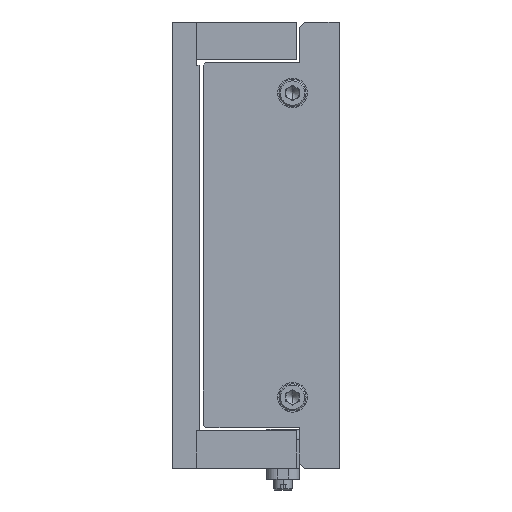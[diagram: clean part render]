
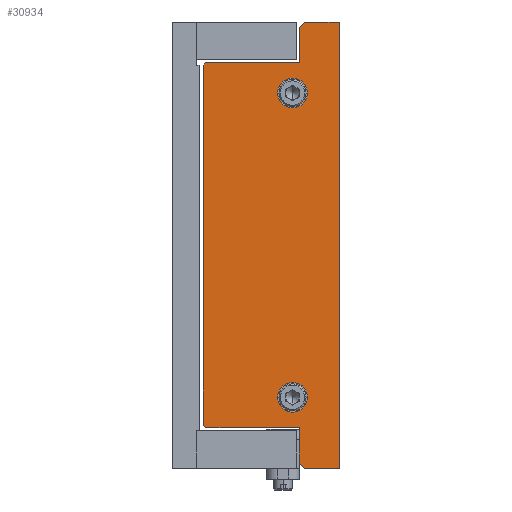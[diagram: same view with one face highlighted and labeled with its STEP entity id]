
A CAD part, left-side view. The second image highlights one B-rep face of the part: STEP entity #30934.
In plain terms, the highlighted planar face has unit normal (-1, 0, 0).
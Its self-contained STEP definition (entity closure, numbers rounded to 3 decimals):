
#23 = DIRECTION ( 'NONE',  ( 0., -0.707, -0.707 ) ) ;
#68 = CARTESIAN_POINT ( 'NONE',  ( -240., 0., 0. ) ) ;
#80 = CARTESIAN_POINT ( 'NONE',  ( -240., 0.25, -82.5 ) ) ;
#307 = EDGE_CURVE ( 'NONE', #4333, #4589, #35102, .T. ) ;
#821 = VECTOR ( 'NONE', #10165, 1000. ) ;
#1348 = DIRECTION ( 'NONE',  ( 0., 0., 1. ) ) ;
#1471 = VERTEX_POINT ( 'NONE', #34326 ) ;
#1771 = VECTOR ( 'NONE', #22214, 1000. ) ;
#3692 = CARTESIAN_POINT ( 'NONE',  ( -240., 17.5, 50.75 ) ) ;
#4029 = VERTEX_POINT ( 'NONE', #26239 ) ;
#4157 = CARTESIAN_POINT ( 'NONE',  ( -240., 17.5, 56.25 ) ) ;
#4333 = VERTEX_POINT ( 'NONE', #38085 ) ;
#4586 = CARTESIAN_POINT ( 'NONE',  ( -240., 0.25, 82.5 ) ) ;
#4589 = VERTEX_POINT ( 'NONE', #10961 ) ;
#4606 = VECTOR ( 'NONE', #28483, 1000. ) ;
#5040 = AXIS2_PLACEMENT_3D ( 'NONE', #5766, #13840, #31526 ) ;
#5234 = EDGE_CURVE ( 'NONE', #26415, #51976, #34444, .T. ) ;
#5391 = DIRECTION ( 'NONE',  ( 0., 0., -1. ) ) ;
#5471 = DIRECTION ( 'NONE',  ( 0., 0., -1. ) ) ;
#5766 = CARTESIAN_POINT ( 'NONE',  ( -240., 17.5, -56.25 ) ) ;
#6347 = EDGE_CURVE ( 'NONE', #51976, #20784, #38533, .T. ) ;
#6624 = VERTEX_POINT ( 'NONE', #38699 ) ;
#6880 = ORIENTED_EDGE ( 'NONE', *, *, #34812, .T. ) ;
#6918 = EDGE_CURVE ( 'NONE', #6624, #16920, #40279, .T. ) ;
#7443 = EDGE_LOOP ( 'NONE', ( #53667, #34924 ) ) ;
#7547 = LINE ( 'NONE', #47765, #37826 ) ;
#7811 = LINE ( 'NONE', #26538, #1771 ) ;
#8203 = EDGE_CURVE ( 'NONE', #4029, #6624, #46117, .T. ) ;
#8671 = DIRECTION ( 'NONE',  ( -1., 0., 0. ) ) ;
#9311 = CARTESIAN_POINT ( 'NONE',  ( -240., 50.5, 66.5 ) ) ;
#9713 = EDGE_LOOP ( 'NONE', ( #18230, #39667 ) ) ;
#10165 = DIRECTION ( 'NONE',  ( 0., 0., -1. ) ) ;
#10961 = CARTESIAN_POINT ( 'NONE',  ( -240., 15., 80.55 ) ) ;
#10967 = ORIENTED_EDGE ( 'NONE', *, *, #307, .T. ) ;
#11553 = VECTOR ( 'NONE', #20934, 1000. ) ;
#11825 = DIRECTION ( 'NONE',  ( 0., -0.707, -0.707 ) ) ;
#12113 = VERTEX_POINT ( 'NONE', #44231 ) ;
#13693 = EDGE_CURVE ( 'NONE', #20784, #4333, #7811, .T. ) ;
#13840 = DIRECTION ( 'NONE',  ( -1., 0., 0. ) ) ;
#14231 = CARTESIAN_POINT ( 'NONE',  ( -240., 49.5, 67.5 ) ) ;
#16760 = DIRECTION ( 'NONE',  ( 0., 0., -1. ) ) ;
#16840 = LINE ( 'NONE', #52116, #39756 ) ;
#16920 = VERTEX_POINT ( 'NONE', #9311 ) ;
#17091 = ORIENTED_EDGE ( 'NONE', *, *, #6347, .T. ) ;
#17391 = EDGE_CURVE ( 'NONE', #12113, #26415, #31765, .T. ) ;
#17910 = EDGE_LOOP ( 'NONE', ( #17091, #46032, #10967, #48937, #26755, #47215, #46190, #48786, #6880, #40887, #41427, #20366 ) ) ;
#18230 = ORIENTED_EDGE ( 'NONE', *, *, #46252, .F. ) ;
#18235 = CARTESIAN_POINT ( 'NONE',  ( -240., 15., 67.5 ) ) ;
#19445 = DIRECTION ( 'NONE',  ( 0., 0.707, -0.707 ) ) ;
#19574 = VERTEX_POINT ( 'NONE', #22003 ) ;
#19616 = EDGE_CURVE ( 'NONE', #38119, #19574, #47832, .T. ) ;
#20366 = ORIENTED_EDGE ( 'NONE', *, *, #5234, .T. ) ;
#20784 = VERTEX_POINT ( 'NONE', #4586 ) ;
#20805 = VERTEX_POINT ( 'NONE', #26164 ) ;
#20934 = DIRECTION ( 'NONE',  ( 0., -1., 0. ) ) ;
#20978 = LINE ( 'NONE', #36315, #821 ) ;
#22003 = CARTESIAN_POINT ( 'NONE',  ( -240., 17.5, 61.75 ) ) ;
#22214 = DIRECTION ( 'NONE',  ( 0., 1., 0. ) ) ;
#22768 = DIRECTION ( 'NONE',  ( -1., 0., 0. ) ) ;
#23630 = VECTOR ( 'NONE', #23, 1000. ) ;
#24526 = LINE ( 'NONE', #45927, #55600 ) ;
#25434 = CARTESIAN_POINT ( 'NONE',  ( -240., 0.25, -82.5 ) ) ;
#25582 = PLANE ( 'NONE',  #46859 ) ;
#25769 = EDGE_CURVE ( 'NONE', #1471, #12113, #20978, .T. ) ;
#26164 = CARTESIAN_POINT ( 'NONE',  ( -240., 49.5, -67.5 ) ) ;
#26239 = CARTESIAN_POINT ( 'NONE',  ( -240., 15., 67.5 ) ) ;
#26415 = VERTEX_POINT ( 'NONE', #36089 ) ;
#26538 = CARTESIAN_POINT ( 'NONE',  ( -240., 13.05, 82.5 ) ) ;
#26755 = ORIENTED_EDGE ( 'NONE', *, *, #8203, .T. ) ;
#27052 = VECTOR ( 'NONE', #37041, 1000. ) ;
#27448 = CARTESIAN_POINT ( 'NONE',  ( -240., 17.5, 56.25 ) ) ;
#28146 = DIRECTION ( 'NONE',  ( 0., 0., 1. ) ) ;
#28346 = CARTESIAN_POINT ( 'NONE',  ( -240., 0.25, 82.5 ) ) ;
#28483 = DIRECTION ( 'NONE',  ( 0., 0.707, -0.707 ) ) ;
#30458 = DIRECTION ( 'NONE',  ( 0., 0., 1. ) ) ;
#30934 = ADVANCED_FACE ( 'NONE', ( #54676, #54033, #45255 ), #25582, .F. ) ;
#31227 = EDGE_CURVE ( 'NONE', #4589, #4029, #39076, .T. ) ;
#31526 = DIRECTION ( 'NONE',  ( 0., 0., 1. ) ) ;
#31705 = CIRCLE ( 'NONE', #40232, 5.5 ) ;
#31765 = LINE ( 'NONE', #52341, #23630 ) ;
#32253 = CARTESIAN_POINT ( 'NONE',  ( -240., 50.5, 66.5 ) ) ;
#33296 = VECTOR ( 'NONE', #48917, 1000. ) ;
#33496 = EDGE_CURVE ( 'NONE', #41272, #20805, #24526, .T. ) ;
#34265 = DIRECTION ( 'NONE',  ( 1., 0., 0. ) ) ;
#34326 = CARTESIAN_POINT ( 'NONE',  ( -240., 15., -67.5 ) ) ;
#34444 = LINE ( 'NONE', #25434, #11553 ) ;
#34812 = EDGE_CURVE ( 'NONE', #20805, #1471, #7547, .T. ) ;
#34924 = ORIENTED_EDGE ( 'NONE', *, *, #19616, .F. ) ;
#35102 = LINE ( 'NONE', #36592, #45883 ) ;
#35453 = EDGE_CURVE ( 'NONE', #37830, #40082, #43780, .T. ) ;
#36089 = CARTESIAN_POINT ( 'NONE',  ( -240., 13.05, -82.5 ) ) ;
#36315 = CARTESIAN_POINT ( 'NONE',  ( -240., 15., -80.55 ) ) ;
#36502 = CIRCLE ( 'NONE', #38862, 5.5 ) ;
#36592 = CARTESIAN_POINT ( 'NONE',  ( -240., 15., 80.55 ) ) ;
#36661 = CARTESIAN_POINT ( 'NONE',  ( -240., 17.5, -56.25 ) ) ;
#36858 = DIRECTION ( 'NONE',  ( -1., 0., 0. ) ) ;
#37041 = DIRECTION ( 'NONE',  ( 0., 0., 1. ) ) ;
#37109 = CARTESIAN_POINT ( 'NONE',  ( -240., 17.5, -50.75 ) ) ;
#37826 = VECTOR ( 'NONE', #52115, 1000. ) ;
#37830 = VERTEX_POINT ( 'NONE', #48362 ) ;
#38085 = CARTESIAN_POINT ( 'NONE',  ( -240., 13.05, 82.5 ) ) ;
#38119 = VERTEX_POINT ( 'NONE', #3692 ) ;
#38533 = LINE ( 'NONE', #28346, #27052 ) ;
#38699 = CARTESIAN_POINT ( 'NONE',  ( -240., 49.5, 67.5 ) ) ;
#38862 = AXIS2_PLACEMENT_3D ( 'NONE', #36661, #36858, #28146 ) ;
#39076 = LINE ( 'NONE', #18235, #44485 ) ;
#39336 = EDGE_CURVE ( 'NONE', #19574, #38119, #31705, .T. ) ;
#39667 = ORIENTED_EDGE ( 'NONE', *, *, #35453, .F. ) ;
#39756 = VECTOR ( 'NONE', #5391, 1000. ) ;
#40082 = VERTEX_POINT ( 'NONE', #37109 ) ;
#40232 = AXIS2_PLACEMENT_3D ( 'NONE', #4157, #8671, #30458 ) ;
#40279 = LINE ( 'NONE', #32253, #4606 ) ;
#40887 = ORIENTED_EDGE ( 'NONE', *, *, #25769, .T. ) ;
#41272 = VERTEX_POINT ( 'NONE', #51430 ) ;
#41427 = ORIENTED_EDGE ( 'NONE', *, *, #17391, .T. ) ;
#43780 = CIRCLE ( 'NONE', #5040, 5.5 ) ;
#44231 = CARTESIAN_POINT ( 'NONE',  ( -240., 15., -80.55 ) ) ;
#44485 = VECTOR ( 'NONE', #5471, 1000. ) ;
#45237 = AXIS2_PLACEMENT_3D ( 'NONE', #27448, #22768, #1348 ) ;
#45255 = FACE_OUTER_BOUND ( 'NONE', #17910, .T. ) ;
#45883 = VECTOR ( 'NONE', #19445, 1000. ) ;
#45927 = CARTESIAN_POINT ( 'NONE',  ( -240., 49.5, -67.5 ) ) ;
#46032 = ORIENTED_EDGE ( 'NONE', *, *, #13693, .T. ) ;
#46117 = LINE ( 'NONE', #14231, #33296 ) ;
#46190 = ORIENTED_EDGE ( 'NONE', *, *, #54242, .T. ) ;
#46252 = EDGE_CURVE ( 'NONE', #40082, #37830, #36502, .T. ) ;
#46859 = AXIS2_PLACEMENT_3D ( 'NONE', #68, #34265, #16760 ) ;
#47215 = ORIENTED_EDGE ( 'NONE', *, *, #6918, .T. ) ;
#47765 = CARTESIAN_POINT ( 'NONE',  ( -240., 15., -67.5 ) ) ;
#47832 = CIRCLE ( 'NONE', #45237, 5.5 ) ;
#48362 = CARTESIAN_POINT ( 'NONE',  ( -240., 17.5, -61.75 ) ) ;
#48786 = ORIENTED_EDGE ( 'NONE', *, *, #33496, .T. ) ;
#48917 = DIRECTION ( 'NONE',  ( 0., 1., 0. ) ) ;
#48937 = ORIENTED_EDGE ( 'NONE', *, *, #31227, .T. ) ;
#51430 = CARTESIAN_POINT ( 'NONE',  ( -240., 50.5, -66.5 ) ) ;
#51976 = VERTEX_POINT ( 'NONE', #80 ) ;
#52115 = DIRECTION ( 'NONE',  ( 0., -1., 0. ) ) ;
#52116 = CARTESIAN_POINT ( 'NONE',  ( -240., 50.5, -66.5 ) ) ;
#52341 = CARTESIAN_POINT ( 'NONE',  ( -240., 13.05, -82.5 ) ) ;
#53667 = ORIENTED_EDGE ( 'NONE', *, *, #39336, .F. ) ;
#54033 = FACE_BOUND ( 'NONE', #7443, .T. ) ;
#54242 = EDGE_CURVE ( 'NONE', #16920, #41272, #16840, .T. ) ;
#54676 = FACE_BOUND ( 'NONE', #9713, .T. ) ;
#55600 = VECTOR ( 'NONE', #11825, 1000. ) ;
